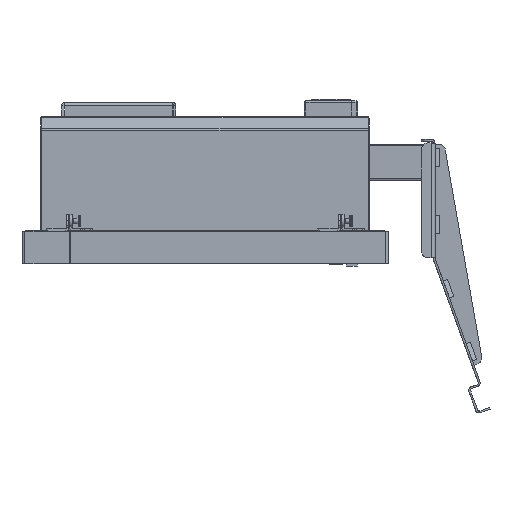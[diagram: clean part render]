
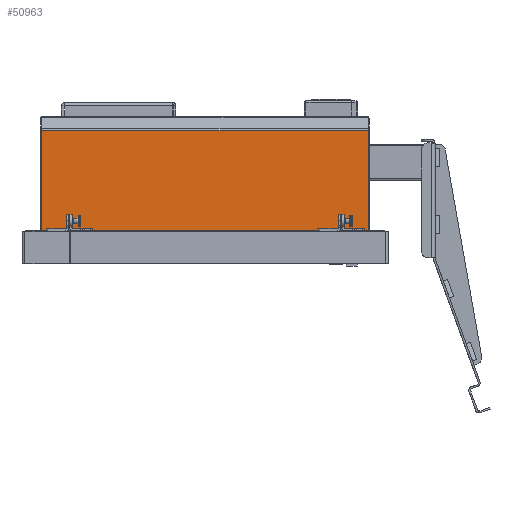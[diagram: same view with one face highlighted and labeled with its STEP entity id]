
A CAD part, left-side view. The second image highlights one B-rep face of the part: STEP entity #50963.
In plain terms, the highlighted planar face has unit normal (-1, 0, 0).
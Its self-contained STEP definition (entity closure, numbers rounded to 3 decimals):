
#5647=FACE_OUTER_BOUND('',#8562,.T.);
#8562=EDGE_LOOP('',(#39074,#39075,#39076,#39077));
#12163=LINE('',#80903,#16621);
#12164=LINE('',#80905,#16622);
#12165=LINE('',#80907,#16623);
#12166=LINE('',#80908,#16624);
#16621=VECTOR('',#64149,10.);
#16622=VECTOR('',#64150,10.);
#16623=VECTOR('',#64151,10.);
#16624=VECTOR('',#64152,10.);
#21591=VERTEX_POINT('',#80901);
#21592=VERTEX_POINT('',#80902);
#21593=VERTEX_POINT('',#80904);
#21594=VERTEX_POINT('',#80906);
#27717=EDGE_CURVE('',#21591,#21592,#12163,.T.);
#27718=EDGE_CURVE('',#21592,#21593,#12164,.T.);
#27719=EDGE_CURVE('',#21593,#21594,#12165,.T.);
#27720=EDGE_CURVE('',#21594,#21591,#12166,.T.);
#39074=ORIENTED_EDGE('',*,*,#27717,.T.);
#39075=ORIENTED_EDGE('',*,*,#27718,.T.);
#39076=ORIENTED_EDGE('',*,*,#27719,.T.);
#39077=ORIENTED_EDGE('',*,*,#27720,.T.);
#46513=PLANE('',#54869);
#50963=ADVANCED_FACE('',(#5647),#46513,.F.);
#54869=AXIS2_PLACEMENT_3D('',#80900,#64147,#64148);
#64147=DIRECTION('center_axis',(1.,0.,
0.));
#64148=DIRECTION('ref_axis',(0.,0.,-1.));
#64149=DIRECTION('',(0.,-1.,0.));
#64150=DIRECTION('',(0.,0.,1.));
#64151=DIRECTION('',(0.,1.,0.));
#64152=DIRECTION('',(0.,0.,-1.));
#80900=CARTESIAN_POINT('Origin',(-199.211,-66.199,-105.836));
#80901=CARTESIAN_POINT('',(-199.263,172.801,-130.737));
#80902=CARTESIAN_POINT('',(-199.186,-183.699,-130.737));
#80903=CARTESIAN_POINT('',(-199.205,-94.574,-130.737));
#80904=CARTESIAN_POINT('',(-199.186,-183.699,-20.848));
#80905=CARTESIAN_POINT('',(-199.186,-183.699,-104.647));
#80906=CARTESIAN_POINT('',(-199.263,172.801,-20.848));
#80907=CARTESIAN_POINT('',(-199.224,-5.449,-20.848));
#80908=CARTESIAN_POINT('',(-199.263,172.801,-104.647));
